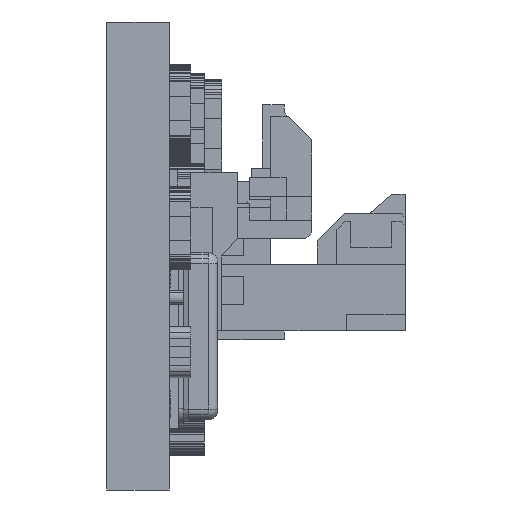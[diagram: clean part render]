
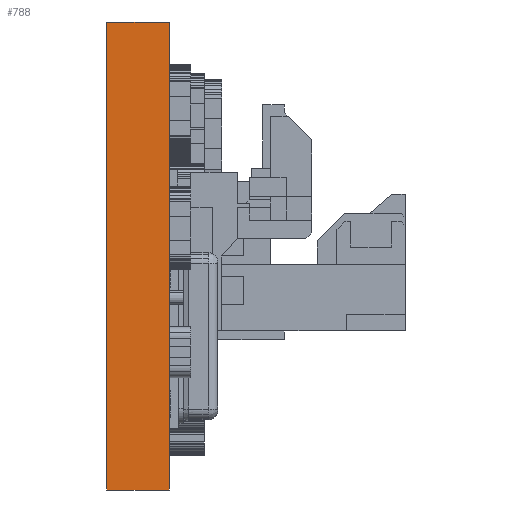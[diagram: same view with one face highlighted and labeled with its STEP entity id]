
A CAD part, left-side view. The second image highlights one B-rep face of the part: STEP entity #788.
In plain terms, the highlighted planar face has unit normal (-1, 0, 0).
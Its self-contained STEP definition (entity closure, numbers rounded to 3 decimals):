
#170=DIRECTION('',(0.,0.,1.));
#171=VECTOR('',#170,12.);
#172=CARTESIAN_POINT('',(-70.,0.,-7.));
#173=LINE('',#172,#171);
#294=DIRECTION('',(0.,0.,1.));
#295=VECTOR('',#294,12.);
#296=CARTESIAN_POINT('',(-70.,1.6,-7.));
#297=LINE('',#296,#295);
#399=DIRECTION('',(0.,1.,0.));
#400=VECTOR('',#399,1.6);
#401=CARTESIAN_POINT('',(-70.,0.,5.));
#402=LINE('',#401,#400);
#406=DIRECTION('',(0.,1.,0.));
#407=VECTOR('',#406,1.6);
#408=CARTESIAN_POINT('',(-70.,0.,-7.));
#409=LINE('',#408,#407);
#414=CARTESIAN_POINT('',(-70.,0.,-7.));
#416=VERTEX_POINT('',#414);
#418=CARTESIAN_POINT('',(-70.,1.6,-7.));
#420=VERTEX_POINT('',#418);
#469=CARTESIAN_POINT('',(-70.,0.,5.));
#471=VERTEX_POINT('',#469);
#473=CARTESIAN_POINT('',(-70.,1.6,5.));
#475=VERTEX_POINT('',#473);
#777=CARTESIAN_POINT('',(-70.,0.,-7.));
#778=DIRECTION('',(-1.,0.,0.));
#779=DIRECTION('',(0.,0.,1.));
#780=AXIS2_PLACEMENT_3D('',#777,#778,#779);
#781=PLANE('',#780);
#782=ORIENTED_EDGE('',*,*,#746,.F.);
#783=ORIENTED_EDGE('',*,*,#488,.F.);
#784=ORIENTED_EDGE('',*,*,#772,.T.);
#785=ORIENTED_EDGE('',*,*,#564,.T.);
#786=EDGE_LOOP('',(#782,#783,#784,#785));
#787=FACE_OUTER_BOUND('',#786,.F.);
#488=EDGE_CURVE('',#416,#471,#173,.T.);
#564=EDGE_CURVE('',#420,#475,#297,.T.);
#746=EDGE_CURVE('',#471,#475,#402,.T.);
#772=EDGE_CURVE('',#416,#420,#409,.T.);
#788=ADVANCED_FACE('',(#787),#781,.T.);
